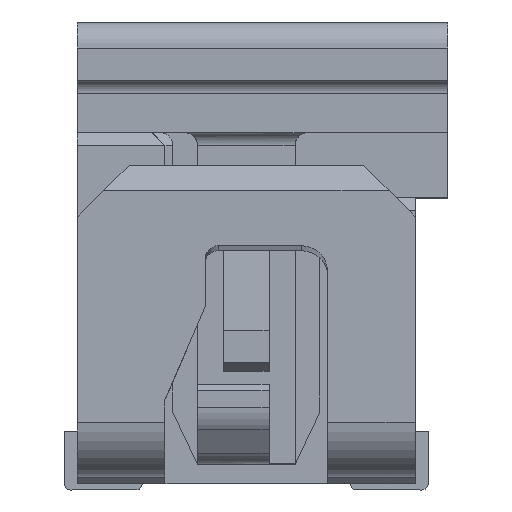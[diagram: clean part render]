
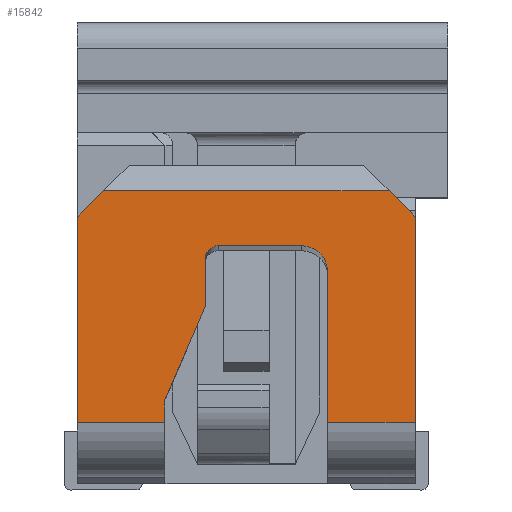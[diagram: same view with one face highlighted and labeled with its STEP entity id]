
A CAD part, left-side view. The second image highlights one B-rep face of the part: STEP entity #15842.
In plain terms, the highlighted planar face has unit normal (-1, 0, 0).
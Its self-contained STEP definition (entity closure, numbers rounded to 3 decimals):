
#186 = CARTESIAN_POINT ( 'NONE',  ( -5.5, -1.925, 0.47 ) ) ;
#255 = VERTEX_POINT ( 'NONE', #5830 ) ;
#1006 = DIRECTION ( 'NONE',  ( 0., -0.707, -0.707 ) ) ;
#1023 = CARTESIAN_POINT ( 'NONE',  ( -5.5, 0., 1.26 ) ) ;
#1126 = VERTEX_POINT ( 'NONE', #7914 ) ;
#1326 =( BOUNDED_CURVE ( )  B_SPLINE_CURVE ( 3, ( #17658, #6005, #9289, #21388 ),
 .UNSPECIFIED., .F., .T. ) 
 B_SPLINE_CURVE_WITH_KNOTS ( ( 4, 4 ),
 ( 4.712, 6.283 ),
 .UNSPECIFIED. ) 
 CURVE ( )  GEOMETRIC_REPRESENTATION_ITEM ( )  RATIONAL_B_SPLINE_CURVE ( ( 1., 0.805, 0.805, 1. ) ) 
 REPRESENTATION_ITEM ( '' )  );
#1349 = CARTESIAN_POINT ( 'NONE',  ( -5.5, -1.821, 1.805 ) ) ;
#1746 = VERTEX_POINT ( 'NONE', #8429 ) ;
#1819 = ORIENTED_EDGE ( 'NONE', *, *, #7966, .F. ) ;
#1905 = CARTESIAN_POINT ( 'NONE',  ( -5.5, -0.83, 1.002 ) ) ;
#2015 = DIRECTION ( 'NONE',  ( 0., 0.397, -0.918 ) ) ;
#2161 = DIRECTION ( 'NONE',  ( 0., -1., 0. ) ) ;
#2269 = VERTEX_POINT ( 'NONE', #12330 ) ;
#2566 = VERTEX_POINT ( 'NONE', #16963 ) ;
#2808 = VECTOR ( 'NONE', #3538, 1000. ) ;
#2812 = CARTESIAN_POINT ( 'NONE',  ( -5.5, -1.925, 1.628 ) ) ;
#3101 = ORIENTED_EDGE ( 'NONE', *, *, #5313, .T. ) ;
#3201 = CARTESIAN_POINT ( 'NONE',  ( -5.5, -2.6, 0.47 ) ) ;
#3538 = DIRECTION ( 'NONE',  ( 0., -0.707, 0.707 ) ) ;
#3844 = VECTOR ( 'NONE', #12487, 1000. ) ;
#3902 = VECTOR ( 'NONE', #6733, 1000. ) ;
#4009 = ORIENTED_EDGE ( 'NONE', *, *, #5181, .F. ) ;
#4210 = DIRECTION ( 'NONE',  ( 0., 0., 1. ) ) ;
#4510 = CARTESIAN_POINT ( 'NONE',  ( -5.5, -1.842, 1.792 ) ) ;
#4627 = CARTESIAN_POINT ( 'NONE',  ( -5.5, -1.726, 1.829 ) ) ;
#4743 = CARTESIAN_POINT ( 'NONE',  ( -5.5, -1.725, 1.829 ) ) ;
#4976 = CARTESIAN_POINT ( 'NONE',  ( -5.5, -1.916, 1.691 ) ) ;
#5181 = EDGE_CURVE ( 'NONE', #11244, #1746, #9403, .T. ) ;
#5206 = EDGE_CURVE ( 'NONE', #8433, #12801, #7827, .T. ) ;
#5287 = VERTEX_POINT ( 'NONE', #22064 ) ;
#5313 = EDGE_CURVE ( 'NONE', #2566, #15812, #21828, .T. ) ;
#5464 = CARTESIAN_POINT ( 'NONE',  ( -5.5, -0.101, 2.151 ) ) ;
#5568 = CARTESIAN_POINT ( 'NONE',  ( -5.5, -1.405, 1.829 ) ) ;
#5581 = CARTESIAN_POINT ( 'NONE',  ( -5.5, -2.6, 1.26 ) ) ;
#5663 = FACE_OUTER_BOUND ( 'NONE', #22094, .T. ) ;
#5798 = DIRECTION ( 'NONE',  ( 0., 0., 1. ) ) ;
#5830 = CARTESIAN_POINT ( 'NONE',  ( -5.5, -2.399, 2.251 ) ) ;
#5895 = LINE ( 'NONE', #5568, #13239 ) ;
#6005 = CARTESIAN_POINT ( 'NONE',  ( -5.5, -0.985, 1.788 ) ) ;
#6316 = CARTESIAN_POINT ( 'NONE',  ( -5.5, -1.725, 1.829 ) ) ;
#6381 = VECTOR ( 'NONE', #20352, 1000. ) ;
#6402 = VERTEX_POINT ( 'NONE', #11960 ) ;
#6437 = CARTESIAN_POINT ( 'NONE',  ( -5.5, -1.809, 1.811 ) ) ;
#6504 = ORIENTED_EDGE ( 'NONE', *, *, #7396, .T. ) ;
#6642 = VECTOR ( 'NONE', #4210, 1000. ) ;
#6652 = CARTESIAN_POINT ( 'NONE',  ( -5.5, -2.499, 2.151 ) ) ;
#6711 = VECTOR ( 'NONE', #17407, 1000. ) ;
#6733 = DIRECTION ( 'NONE',  ( 0., 0., -1. ) ) ;
#6779 = LINE ( 'NONE', #1905, #21229 ) ;
#7086 = CARTESIAN_POINT ( 'NONE',  ( -5.5, -0.985, 1.544 ) ) ;
#7396 = EDGE_CURVE ( 'NONE', #6402, #2269, #5895, .T. ) ;
#7827 = LINE ( 'NONE', #5581, #12410 ) ;
#7914 = CARTESIAN_POINT ( 'NONE',  ( -5.5, -0.675, 0.644 ) ) ;
#7966 = EDGE_CURVE ( 'NONE', #1126, #15812, #18365, .T. ) ;
#8132 = CARTESIAN_POINT ( 'NONE',  ( -5.5, -1.901, 1.726 ) ) ;
#8252 = CARTESIAN_POINT ( 'NONE',  ( -5.5, -1.738, 1.829 ) ) ;
#8301 = CARTESIAN_POINT ( 'NONE',  ( -5.5, -1.925, 0.47 ) ) ;
#8364 = CARTESIAN_POINT ( 'NONE',  ( -5.5, -1.726, 1.829 ) ) ;
#8429 = CARTESIAN_POINT ( 'NONE',  ( -5.5, -1.925, 1.628 ) ) ;
#8433 = VERTEX_POINT ( 'NONE', #3201 ) ;
#8457 = LINE ( 'NONE', #7086, #18689 ) ;
#8485 = EDGE_CURVE ( 'NONE', #5287, #19093, #12340, .T. ) ;
#8657 = EDGE_CURVE ( 'NONE', #13775, #6402, #1326, .T. ) ;
#8742 = EDGE_CURVE ( 'NONE', #2566, #5287, #11646, .T. ) ;
#9011 = ORIENTED_EDGE ( 'NONE', *, *, #17684, .F. ) ;
#9289 = CARTESIAN_POINT ( 'NONE',  ( -5.5, -1.026, 1.829 ) ) ;
#9403 = LINE ( 'NONE', #19685, #6642 ) ;
#9620 = DIRECTION ( 'NONE',  ( 0., -1., 0. ) ) ;
#9748 = ORIENTED_EDGE ( 'NONE', *, *, #8742, .F. ) ;
#9821 = CARTESIAN_POINT ( 'NONE',  ( -5.5, -1.763, 1.826 ) ) ;
#9907 = CARTESIAN_POINT ( 'NONE',  ( -5.5, -0.985, 1.729 ) ) ;
#9933 = CARTESIAN_POINT ( 'NONE',  ( -5.5, -1.922, 1.666 ) ) ;
#10250 = ORIENTED_EDGE ( 'NONE', *, *, #5206, .T. ) ;
#10453 = ORIENTED_EDGE ( 'NONE', *, *, #19808, .F. ) ;
#10509 = LINE ( 'NONE', #15495, #6711 ) ;
#10661 = EDGE_CURVE ( 'NONE', #255, #19093, #10509, .T. ) ;
#11212 = ORIENTED_EDGE ( 'NONE', *, *, #8485, .F. ) ;
#11244 = VERTEX_POINT ( 'NONE', #8301 ) ;
#11403 = CARTESIAN_POINT ( 'NONE',  ( -5.5, -1.925, 1.641 ) ) ;
#11518 = CARTESIAN_POINT ( 'NONE',  ( -5.5, -1.887, 1.748 ) ) ;
#11550 = VECTOR ( 'NONE', #1006, 1000. ) ;
#11625 = ORIENTED_EDGE ( 'NONE', *, *, #10661, .T. ) ;
#11631 = CARTESIAN_POINT ( 'NONE',  ( -5.5, -1.924, 1.654 ) ) ;
#11646 = LINE ( 'NONE', #1023, #6381 ) ;
#11933 = VERTEX_POINT ( 'NONE', #17632 ) ;
#11960 = CARTESIAN_POINT ( 'NONE',  ( -5.5, -1.085, 1.829 ) ) ;
#12330 = CARTESIAN_POINT ( 'NONE',  ( -5.5, -1.725, 1.829 ) ) ;
#12340 = LINE ( 'NONE', #5464, #2808 ) ;
#12410 = VECTOR ( 'NONE', #5798, 1000. ) ;
#12465 = VECTOR ( 'NONE', #9620, 1000. ) ;
#12487 = DIRECTION ( 'NONE',  ( 0., -1., 0. ) ) ;
#12801 = VERTEX_POINT ( 'NONE', #19601 ) ;
#13084 = CARTESIAN_POINT ( 'NONE',  ( -5.5, -1.862, 1.776 ) ) ;
#13239 = VECTOR ( 'NONE', #2161, 1000. ) ;
#13342 = CARTESIAN_POINT ( 'NONE',  ( -5.5, 0., 0.47 ) ) ;
#13775 = VERTEX_POINT ( 'NONE', #9907 ) ;
#14786 = CARTESIAN_POINT ( 'NONE',  ( -5.5, -1.906, 1.714 ) ) ;
#14950 = EDGE_CURVE ( 'NONE', #11244, #8433, #19379, .T. ) ;
#15249 = CARTESIAN_POINT ( 'NONE',  ( -5.5, -1.751, 1.828 ) ) ;
#15495 = CARTESIAN_POINT ( 'NONE',  ( -5.5, -2.6, 2.251 ) ) ;
#15566 = DIRECTION ( 'NONE',  ( 0., 0., -1. ) ) ;
#15638 = CARTESIAN_POINT ( 'NONE',  ( -5.5, -0.201, 2.251 ) ) ;
#15812 = VERTEX_POINT ( 'NONE', #16276 ) ;
#15842 = ADVANCED_FACE ( 'NONE', ( #5663 ), #17752, .F. ) ;
#16276 = CARTESIAN_POINT ( 'NONE',  ( -5.5, -0.675, 0.47 ) ) ;
#16963 = CARTESIAN_POINT ( 'NONE',  ( -5.5, 0., 0.47 ) ) ;
#17273 = EDGE_CURVE ( 'NONE', #11933, #1126, #6779, .T. ) ;
#17407 = DIRECTION ( 'NONE',  ( 0., 1., 0. ) ) ;
#17587 = B_SPLINE_CURVE_WITH_KNOTS ( 'NONE', 5,
 ( #6316, #4743, #4627, #8364, #8252, #15249, #9821, #18756, #6437, #1349, #4510, #13084, #22150, #11518, #8132, #14786, #4976, #9933, #11631, #11403, #2812 ),
 .UNSPECIFIED., .F., .F.,
 ( 6, 3, 3, 3, 3, 3, 6 ),
 ( -0.444, -0.442, -0.357, -0.268, -0.179, -0.089, 0. ),
 .UNSPECIFIED. ) ;
#17632 = CARTESIAN_POINT ( 'NONE',  ( -5.5, -0.985, 1.36 ) ) ;
#17658 = CARTESIAN_POINT ( 'NONE',  ( -5.5, -0.985, 1.729 ) ) ;
#17684 = EDGE_CURVE ( 'NONE', #13775, #11933, #8457, .T. ) ;
#17752 = PLANE ( 'NONE',  #19391 ) ;
#17759 = ORIENTED_EDGE ( 'NONE', *, *, #17273, .F. ) ;
#17859 = DIRECTION ( 'NONE',  ( 1., 0., 0. ) ) ;
#18076 = CARTESIAN_POINT ( 'NONE',  ( -5.5, -2.6, 0. ) ) ;
#18365 = LINE ( 'NONE', #22219, #3902 ) ;
#18689 = VECTOR ( 'NONE', #15566, 1000. ) ;
#18756 = CARTESIAN_POINT ( 'NONE',  ( -5.5, -1.787, 1.82 ) ) ;
#19093 = VERTEX_POINT ( 'NONE', #15638 ) ;
#19379 = LINE ( 'NONE', #186, #3844 ) ;
#19391 = AXIS2_PLACEMENT_3D ( 'NONE', #18076, #17859, #21375 ) ;
#19601 = CARTESIAN_POINT ( 'NONE',  ( -5.5, -2.6, 2.05 ) ) ;
#19685 = CARTESIAN_POINT ( 'NONE',  ( -5.5, -1.925, 1.049 ) ) ;
#19808 = EDGE_CURVE ( 'NONE', #255, #12801, #22146, .T. ) ;
#19938 = ORIENTED_EDGE ( 'NONE', *, *, #14950, .T. ) ;
#20127 = ORIENTED_EDGE ( 'NONE', *, *, #20937, .T. ) ;
#20352 = DIRECTION ( 'NONE',  ( 0., 0., 1. ) ) ;
#20937 = EDGE_CURVE ( 'NONE', #2269, #1746, #17587, .T. ) ;
#21229 = VECTOR ( 'NONE', #2015, 1000. ) ;
#21375 = DIRECTION ( 'NONE',  ( 0., 1., 0. ) ) ;
#21388 = CARTESIAN_POINT ( 'NONE',  ( -5.5, -1.085, 1.829 ) ) ;
#21573 = ORIENTED_EDGE ( 'NONE', *, *, #8657, .T. ) ;
#21828 = LINE ( 'NONE', #13342, #12465 ) ;
#22064 = CARTESIAN_POINT ( 'NONE',  ( -5.5, 0., 2.05 ) ) ;
#22094 = EDGE_LOOP ( 'NONE', ( #6504, #20127, #4009, #19938, #10250, #10453, #11625, #11212, #9748, #3101, #1819, #17759, #9011, #21573 ) ) ;
#22146 = LINE ( 'NONE', #6652, #11550 ) ;
#22150 = CARTESIAN_POINT ( 'NONE',  ( -5.5, -1.871, 1.767 ) ) ;
#22219 = CARTESIAN_POINT ( 'NONE',  ( -5.5, -0.675, 0.557 ) ) ;
